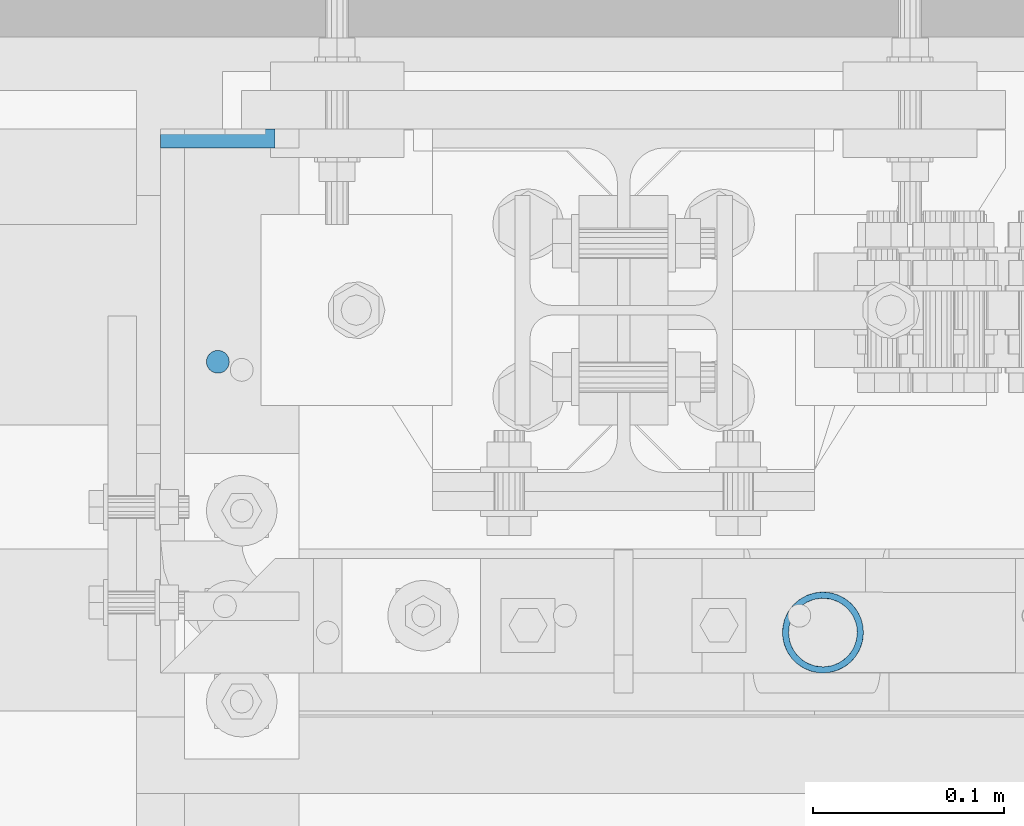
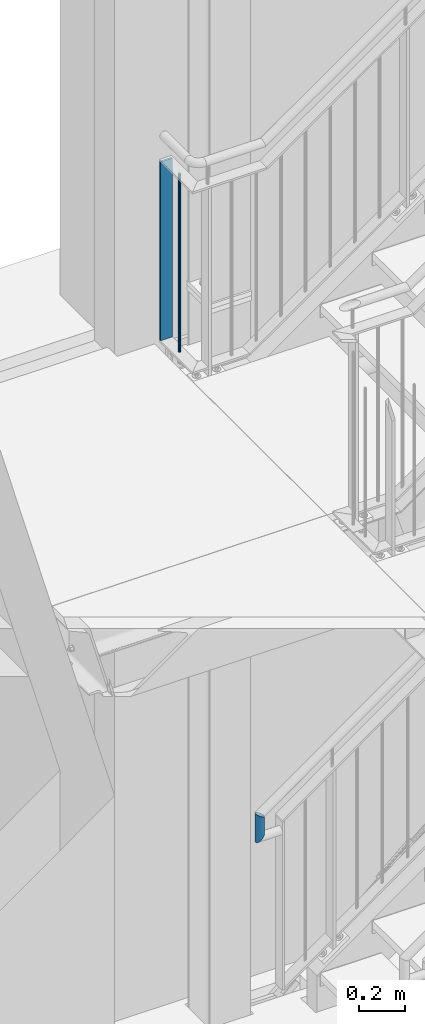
# One storey, part 66 of 831: 3 columns.
"""IFC2X3 building model written with IfcOpenShell, lengths in millimetres."""

from ifc_helpers import new_model, entity, si_unit, converted_unit, frame, origin, origin_with_axes, origin_2d, place, context, project, spatial, rectangle, circle, hollow_circle, extrude, clip, halfspace, material, element, save


model = new_model("IFC2X3")

# Units and contexts
model_context = context("Model", 3, precision=1e-09, world=origin_with_axes())
ifc_project = project(units=[si_unit("LENGTHUNIT", "METRE", prefix="MILLI"), si_unit("AREAUNIT", "SQUARE_METRE"), si_unit("VOLUMEUNIT", "CUBIC_METRE"), converted_unit("PLANEANGLEUNIT", "DEGREE", entity("IfcPlaneAngleMeasure", 0.01745329), si_unit("PLANEANGLEUNIT", "RADIAN"), dimensions=[0, 0, 0, 0, 0, 0, 0])], contexts=[model_context])

# Site, building, storey
site_placement = place(None, origin_with_axes())
site = spatial("IfcSite", under=ifc_project, at=site_placement, Name="Site", CompositionType="ELEMENT")
building_placement = place(site_placement, origin_with_axes())
building = spatial("IfcBuilding", under=site, at=building_placement, Name="Struktur 1", CompositionType="ELEMENT")
storey_placement = place(building_placement, origin_with_axes())
storey = spatial("IfcBuildingStorey", under=building, at=storey_placement, Name="Default Storey", CompositionType="ELEMENT", Elevation=0.0)

# Columns
ifc_material = material(Name="S235JR")
column_1_placement = place(None, frame((4644.213402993, 7606.736971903, 3917.0), z_axis=(0.0, 0.0, -1.0), x_axis=(0.0, -1.0, 0.0)))
element("IfcColumn", 1, at=column_1_placement, inside=storey, material=ifc_material, Name="Railing_Kneerail_Landing#0", ObjectType="Railing_Kneerail_Landing#0", context=model_context, shape_type="SweptSolid", body=[
    extrude(rectangle(XDim=10.0, YDim=60.0, at=origin_2d()), origin(), (0.0, 0.0, -1.0), 938.8),
])
column_2_placement = place(None, frame((4644.213402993, 7489.736971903, 4869.285281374), z_axis=(0.0, 0.0, 1.0), x_axis=(1.0, 0.0, 0.0)))
element("IfcColumn", 2, at=column_2_placement, inside=storey, material=ifc_material, Name="Railing_Picket_Landing#0", ObjectType="Railing_Picket_Landing#0", context=model_context, shape_type="Clipping", body=[
    clip(clip(extrude(circle(Radius=6.0, at=origin_2d()), origin(), (0.0, 0.0, -1.0), 965.770562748), halfspace(frame((-4644.213402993, -7489.736971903, -13.486281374), z_axis=(0.0, 0.0, -1.0), x_axis=(-1.0, 0.0, 0.0)), True)), halfspace(frame((-4644.213402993, -7489.736971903, -952.284281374), z_axis=(0.0, 0.0, 1.0), x_axis=(1.0, 0.0, 0.0)), True)),
])
column_3_placement = place(None, frame((4961.101665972, 7347.936971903, 1298.8000007), z_axis=(0.0, 0.0, -1.0), x_axis=(1.0, 0.0, 0.0)))
element("IfcColumn", 3, at=column_3_placement, inside=storey, material=ifc_material, Name="Railing_Handrail_Landing#0", ObjectType="Railing_Handrail_Landing#0", context=model_context, shape_type="Clipping", body=[
    clip(clip(extrude(hollow_circle(Radius=21.2, WallThickness=3.2, at=origin_2d()), origin(), (0.0, 0.0, -1.0), 193.817233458), halfspace(frame((-3151.151540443, 7347.936971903, 3108.750126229), z_axis=(-0.707106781, 0.0, -0.707106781), x_axis=(0.0, 1.0, 0.0)), True)), halfspace(frame((-3324.976639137, 7347.936971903, -1874.443088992), z_axis=(-0.458271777, 0.0, 0.888812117), x_axis=(0.0, 1.0, 0.0)), True)),
])

save(model, "model.ifc")
